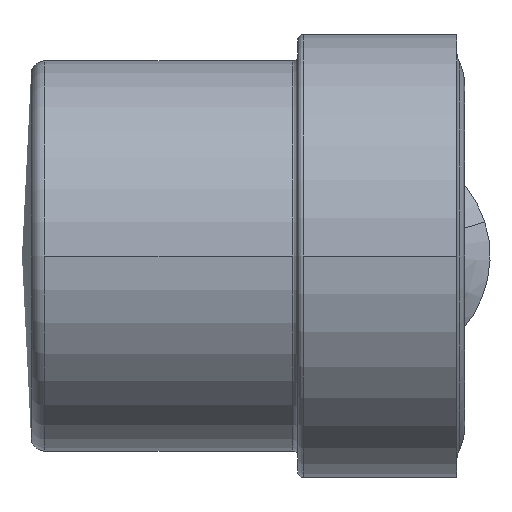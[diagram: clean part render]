
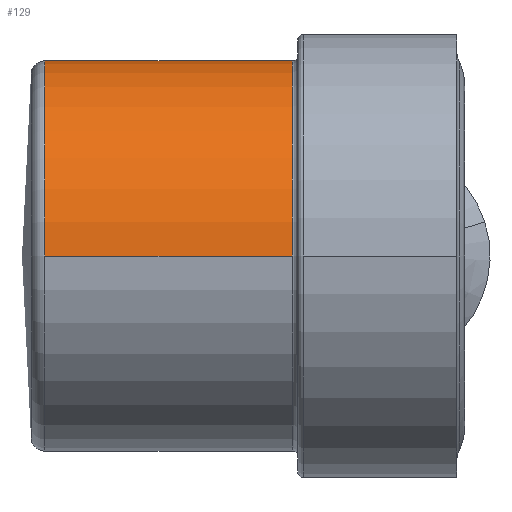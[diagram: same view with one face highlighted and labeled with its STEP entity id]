
A CAD part, left-side view. The second image highlights one B-rep face of the part: STEP entity #129.
In plain terms, the highlighted cylindrical face has radius 7 mm (diameter 14 mm), a partial arc.
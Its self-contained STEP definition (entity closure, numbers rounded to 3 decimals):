
#129=ADVANCED_FACE('',(#186),#187,.T.);
#186=FACE_OUTER_BOUND('',#293,.T.);
#187=CYLINDRICAL_SURFACE('',#294,7.0);
#293=EDGE_LOOP('',(#443,#444,#445,#446,#447,#448));
#294=AXIS2_PLACEMENT_3D('',#449,#450,#451);
#443=ORIENTED_EDGE('',*,*,#795,.F.);
#444=ORIENTED_EDGE('',*,*,#796,.F.);
#445=ORIENTED_EDGE('',*,*,#797,.F.);
#446=ORIENTED_EDGE('',*,*,#798,.F.);
#447=ORIENTED_EDGE('',*,*,#799,.F.);
#448=ORIENTED_EDGE('',*,*,#778,.F.);
#449=CARTESIAN_POINT('',(0.0,10.754,0.0));
#450=DIRECTION('',(0.0,-1.0,0.0));
#451=DIRECTION('',(1.0,0.0,0.0));
#778=EDGE_CURVE('',#903,#905,#906,.T.);
#795=EDGE_CURVE('',#937,#903,#938,.T.);
#796=EDGE_CURVE('',#939,#937,#940,.T.);
#797=EDGE_CURVE('',#941,#939,#942,.T.);
#798=EDGE_CURVE('',#943,#941,#944,.T.);
#799=EDGE_CURVE('',#905,#943,#945,.T.);
#903=VERTEX_POINT('',#1090);
#905=VERTEX_POINT('',#1092);
#906=CIRCLE('',#1093,7.0);
#937=VERTEX_POINT('',#1163);
#938=LINE('',#1164,#1165);
#939=VERTEX_POINT('',#1166);
#940=CIRCLE('',#1167,7.0);
#941=VERTEX_POINT('',#1168);
#942=CIRCLE('',#1169,7.0);
#943=VERTEX_POINT('',#1170);
#944=LINE('',#1171,#1172);
#945=CIRCLE('',#1173,7.0);
#1090=CARTESIAN_POINT('',(7.0,6.2,0.0));
#1092=CARTESIAN_POINT('',(0.,6.2,7.0));
#1093=AXIS2_PLACEMENT_3D('',#1387,#1388,#1389);
#1163=CARTESIAN_POINT('',(7.0,15.071,0.));
#1164=CARTESIAN_POINT('',(7.0,10.754,0.));
#1165=VECTOR('',#1426,1.0);
#1166=CARTESIAN_POINT('',(0.,15.071,7.0));
#1167=AXIS2_PLACEMENT_3D('',#1427,#1428,#1429);
#1168=CARTESIAN_POINT('',(-7.0,15.071,0.));
#1169=AXIS2_PLACEMENT_3D('',#1430,#1431,#1432);
#1170=CARTESIAN_POINT('',(-7.0,6.2,0.));
#1171=CARTESIAN_POINT('',(-7.0,10.754,0.));
#1172=VECTOR('',#1433,1.0);
#1173=AXIS2_PLACEMENT_3D('',#1434,#1435,#1436);
#1387=CARTESIAN_POINT('',(0.0,6.2,0.0));
#1388=DIRECTION('',(0.0,-1.0,0.0));
#1389=DIRECTION('',(-1.0,0.0,0.0));
#1426=DIRECTION('',(0.0,-1.0,0.0));
#1427=CARTESIAN_POINT('',(0.0,15.071,0.0));
#1428=DIRECTION('',(0.0,1.0,0.0));
#1429=DIRECTION('',(-1.0,0.0,0.0));
#1430=CARTESIAN_POINT('',(0.0,15.071,0.0));
#1431=DIRECTION('',(0.0,1.0,0.0));
#1432=DIRECTION('',(-1.0,0.0,0.0));
#1433=DIRECTION('',(0.0,1.0,0.0));
#1434=CARTESIAN_POINT('',(0.0,6.2,0.0));
#1435=DIRECTION('',(0.0,-1.0,0.0));
#1436=DIRECTION('',(-1.0,0.0,0.0));
